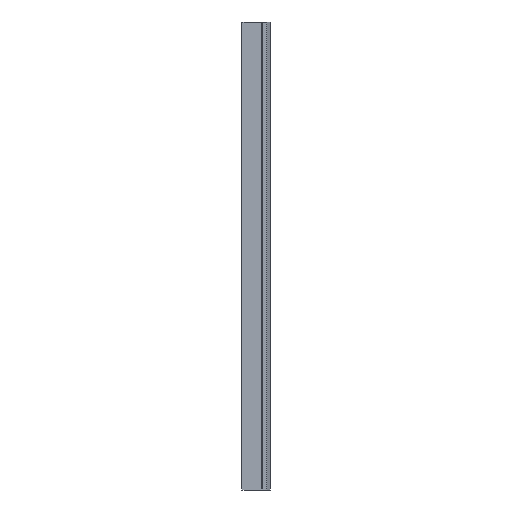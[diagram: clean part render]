
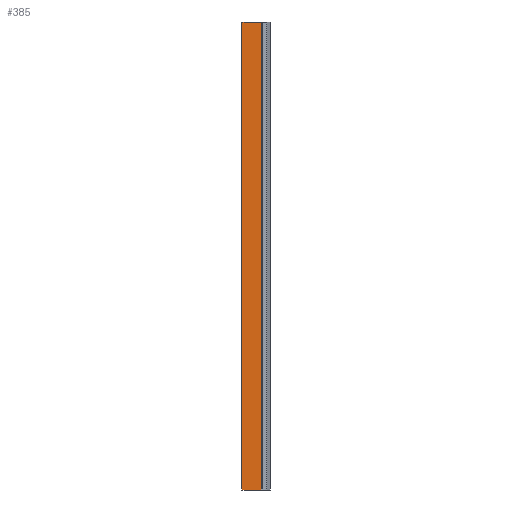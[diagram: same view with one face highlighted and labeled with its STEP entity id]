
A CAD part, left-side view. The second image highlights one B-rep face of the part: STEP entity #385.
In plain terms, the highlighted planar face has unit normal (-1, 0, 0).
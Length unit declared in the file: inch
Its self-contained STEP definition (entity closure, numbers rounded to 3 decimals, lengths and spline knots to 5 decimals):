
#38 = CARTESIAN_POINT ( 'NONE',  ( 0., 5.035, 0. ) ) ;
#48 = CARTESIAN_POINT ( 'NONE',  ( 0., 0.03501, 0. ) ) ;
#56 = VERTEX_POINT ( 'NONE', #666 ) ;
#57 = DIRECTION ( 'NONE',  ( 0., -1., 0. ) ) ;
#148 = LINE ( 'NONE', #856, #665 ) ;
#164 = LINE ( 'NONE', #219, #706 ) ;
#177 = EDGE_CURVE ( 'NONE', #56, #275, #843, .T. ) ;
#219 = CARTESIAN_POINT ( 'NONE',  ( 0., 5.035, 120. ) ) ;
#257 = LINE ( 'NONE', #48, #649 ) ;
#275 = VERTEX_POINT ( 'NONE', #418 ) ;
#286 = DIRECTION ( 'NONE',  ( 0., 0., -1. ) ) ;
#301 = CARTESIAN_POINT ( 'NONE',  ( 0., 0.03501, 0. ) ) ;
#341 = DIRECTION ( 'NONE',  ( 0., 0., -1. ) ) ;
#385 = ADVANCED_FACE ( 'NONE', ( #608 ), #751, .F. ) ;
#418 = CARTESIAN_POINT ( 'NONE',  ( 0., 0.03501, 120. ) ) ;
#452 = VERTEX_POINT ( 'NONE', #301 ) ;
#473 = ORIENTED_EDGE ( 'NONE', *, *, #177, .F. ) ;
#542 = AXIS2_PLACEMENT_3D ( 'NONE', #614, #800, #341 ) ;
#553 = EDGE_CURVE ( 'NONE', #56, #746, #164, .T. ) ;
#561 = ORIENTED_EDGE ( 'NONE', *, *, #682, .T. ) ;
#608 = FACE_OUTER_BOUND ( 'NONE', #854, .T. ) ;
#613 = CARTESIAN_POINT ( 'NONE',  ( 0., 0.03501, 120. ) ) ;
#614 = CARTESIAN_POINT ( 'NONE',  ( 0., 0.03501, 120. ) ) ;
#643 = ORIENTED_EDGE ( 'NONE', *, *, #553, .T. ) ;
#649 = VECTOR ( 'NONE', #57, 39.37008 ) ;
#653 = DIRECTION ( 'NONE',  ( 0., 0., -1. ) ) ;
#665 = VECTOR ( 'NONE', #653, 39.37008 ) ;
#666 = CARTESIAN_POINT ( 'NONE',  ( 0., 5.035, 120. ) ) ;
#677 = DIRECTION ( 'NONE',  ( 0., -1., 0. ) ) ;
#682 = EDGE_CURVE ( 'NONE', #746, #452, #257, .T. ) ;
#700 = VECTOR ( 'NONE', #677, 39.37008 ) ;
#706 = VECTOR ( 'NONE', #286, 39.37008 ) ;
#746 = VERTEX_POINT ( 'NONE', #38 ) ;
#751 = PLANE ( 'NONE',  #542 ) ;
#800 = DIRECTION ( 'NONE',  ( 1., 0., 0. ) ) ;
#819 = EDGE_CURVE ( 'NONE', #275, #452, #148, .T. ) ;
#843 = LINE ( 'NONE', #613, #700 ) ;
#854 = EDGE_LOOP ( 'NONE', ( #561, #862, #473, #643 ) ) ;
#856 = CARTESIAN_POINT ( 'NONE',  ( 0., 0.03501, 120. ) ) ;
#862 = ORIENTED_EDGE ( 'NONE', *, *, #819, .F. ) ;
